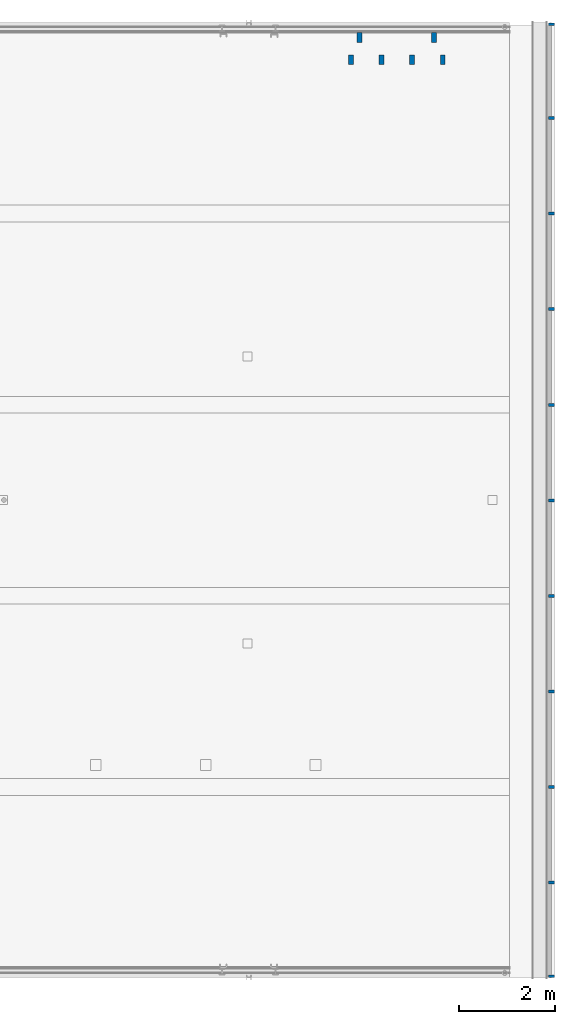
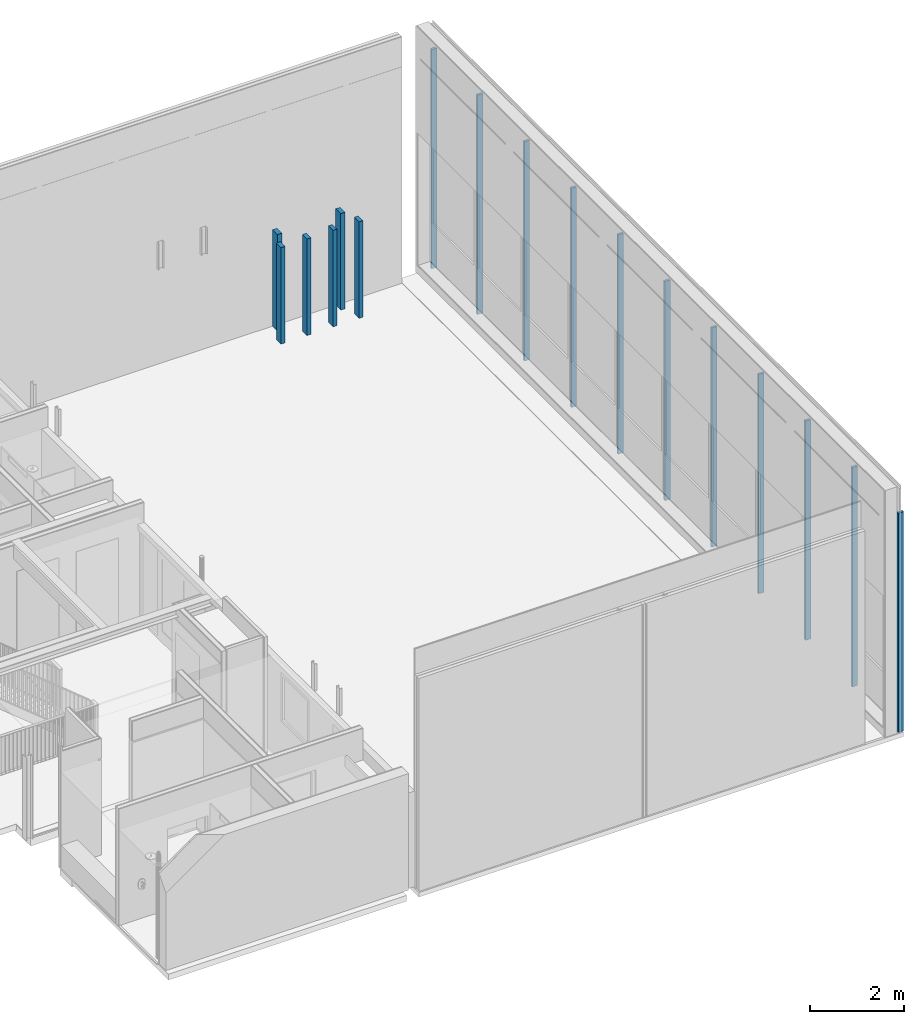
# One storey, part 3 of 35: 17 columns.
"""IFC2X3 building model written with IfcOpenShell, lengths in millimetres."""

from ifc_helpers import new_model, entity, si_unit, converted_unit, derived_unit, money_unit, direction, frame, origin_with_axes, place, context, subcontext, project, spatial, faceted_brep, material, type_object, element, save


model = new_model("IFC2X3")

# Units and contexts
model_context = context("Model", 3, precision=0.01, world=origin_with_axes(), true_north=direction((0.0, 1.0)))
body_context = subcontext(model_context, "Body", "Model", "MODEL_VIEW")
ifc_project = project(units=[si_unit("LENGTHUNIT", "METRE", prefix="MILLI"), si_unit("AREAUNIT", "SQUARE_METRE"), si_unit("VOLUMEUNIT", "CUBIC_METRE"), converted_unit("PLANEANGLEUNIT", "DEGREE", entity("IfcPlaneAngleMeasure", 0.0174532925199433), si_unit("PLANEANGLEUNIT", "RADIAN"), dimensions=[0, 0, 0, 0, 0, 0, 0]), money_unit("EUR"), converted_unit("TIMEUNIT", "Year", entity("IfcTimeMeasure", 31557600.0), si_unit("TIMEUNIT", "SECOND"), dimensions=[0, 0, 1, 0, 0, 0, 0]), si_unit("MASSUNIT", "GRAM", prefix="KILO"), si_unit("THERMODYNAMICTEMPERATUREUNIT", "DEGREE_CELSIUS"), si_unit("LUMINOUSINTENSITYUNIT", "LUMEN"), si_unit("ENERGYUNIT", "JOULE", prefix="MEGA"), derived_unit("THERMALCONDUCTANCEUNIT", [(si_unit("POWERUNIT", "WATT"), 1), (si_unit("LENGTHUNIT", "METRE"), -1), (si_unit("THERMODYNAMICTEMPERATUREUNIT", "KELVIN"), -1)]), derived_unit("SPECIFICHEATCAPACITYUNIT", [(si_unit("ENERGYUNIT", "JOULE"), 1), (si_unit("MASSUNIT", "GRAM", prefix="KILO"), -1), (si_unit("THERMODYNAMICTEMPERATUREUNIT", "KELVIN"), -1)]), derived_unit("MASSDENSITYUNIT", [(si_unit("MASSUNIT", "GRAM", prefix="KILO"), 1), (si_unit("VOLUMEUNIT", "CUBIC_METRE"), -1)])], contexts=[model_context])

# Site, building, storey
site_placement = place(None, origin_with_axes())
site = spatial("IfcSite", under=ifc_project, at=site_placement, Name="<site naam>", CompositionType="ELEMENT")
building_placement = place(site_placement, origin_with_axes())
building = spatial("IfcBuilding", under=site, at=building_placement, Name="<Naam gebouw>", CompositionType="ELEMENT")
storey_placement = place(building_placement, frame((0.0, 0.0, 6345.0), z_axis=(0.0, 0.0, 1.0), x_axis=(1.0, 0.0, 0.0)))
storey = spatial("IfcBuildingStorey", under=building, at=storey_placement, Name="02 2e tussenverdieping", CompositionType="ELEMENT", Elevation=6345.0)

# Columns
ifc_material_1 = material(Name="aluminium")
column_type_1 = type_object("IfcColumnType", Name="aluminium 60 x 130", PredefinedType="COLUMN")
column_1_placement = place(storey_placement, frame((70205.00000000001, 16000.00000000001, 0.0), z_axis=(0.0, 0.0, 1.0), x_axis=(0.0, 1.0, 0.0)))
element("IfcColumn", 1, at=column_1_placement, inside=storey, type_object=column_type_1, material=ifc_material_1, Name="41_Kolom_aluminium", ObjectType="COLUMN", context=body_context, shape_type="Brep", body=[
    faceted_brep([(-29.99999999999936, -64.99999999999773, 5715.00000396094), (-29.99999999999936, -64.99999999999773, 0.0), (30.00000000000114, -64.99999999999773, 0.0), (30.00000000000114, -64.99999999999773, 5715.00000396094), (-29.99999999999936, 64.99999999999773, 5715.00000396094), (-29.99999999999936, 64.99999999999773, 0.0), (30.00000000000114, 64.99999999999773, 0.0), (30.00000000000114, 64.99999999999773, 5715.00000396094)], [[[0, 1, 2, 3]], [[4, 5, 1, 0]], [[2, 1, 5, 6]], [[3, 2, 6, 7]], [[4, 0, 3, 7]], [[7, 6, 5, 4]]]),
])
column_2_placement = place(storey_placement, frame((70205.00000000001, 19959.99999956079, 0.0), z_axis=(0.0, 0.0, 1.0), x_axis=(0.0, 1.0, 0.0)))
element("IfcColumn", 2, at=column_2_placement, inside=storey, type_object=column_type_1, material=ifc_material_1, Name="41_Kolom_aluminium", ObjectType="COLUMN", context=body_context, shape_type="Brep", body=[
    faceted_brep([(-29.99999999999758, -64.99999999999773, 5715.00000396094), (-29.99999999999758, -64.99999999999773, 0.0), (30.00000000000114, -64.99999999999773, 0.0), (30.00000000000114, -64.99999999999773, 5715.00000396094), (-29.99999999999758, 64.99999999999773, 5715.00000396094), (-29.99999999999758, 64.99999999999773, 0.0), (30.00000000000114, 64.99999999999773, 0.0), (30.00000000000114, 64.99999999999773, 5715.00000396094)], [[[0, 1, 2, 3]], [[4, 5, 1, 0]], [[2, 1, 5, 6]], [[3, 2, 6, 7]], [[4, 0, 3, 7]], [[7, 6, 5, 4]]]),
])
for number, where, z_axis, x_axis, name in (
    (3, (70205.00000000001, 13999.99999999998, 0.0), (0.0, 0.0, 1.0), (0.0, 1.0, 0.0), "41_Kolom_aluminium"),
    (4, (70205.00000000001, 11997.00000014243, 0.0), (0.0, 0.0, 1.0), (0.0, 1.0, 0.0), "41_Kolom_aluminium"),
    (5, (70205.00000000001, 9997.000000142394, 0.0), (0.0, 0.0, 1.0), (0.0, 1.0, 0.0), "41_Kolom_aluminium"),
):
    element("IfcColumn", number, at=place(storey_placement, frame(where, z_axis=z_axis, x_axis=x_axis)), inside=storey, type_object=column_type_1, material=ifc_material_1, Name=name, ObjectType="COLUMN", context=body_context, shape_type="Brep", body=[
        faceted_brep([(-30.00000000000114, -64.99999999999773, 5715.00000396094), (-30.00000000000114, -64.99999999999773, 0.0), (29.99999999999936, -64.99999999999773, 0.0), (29.99999999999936, -64.99999999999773, 5715.00000396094), (-30.00000000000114, 64.99999999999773, 5715.00000396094), (-30.00000000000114, 64.99999999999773, 0.0), (29.99999999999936, 64.99999999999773, 0.0), (29.99999999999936, 64.99999999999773, 5715.00000396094)], [[[0, 1, 2, 3]], [[4, 5, 1, 0]], [[2, 1, 5, 6]], [[3, 2, 6, 7]], [[4, 0, 3, 7]], [[7, 6, 5, 4]]]),
    ])
column_3_placement = place(storey_placement, frame((70205.00000000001, 5999.999999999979, 0.0), z_axis=(0.0, 0.0, 1.0), x_axis=(0.0, 1.0, 0.0)))
element("IfcColumn", 6, at=column_3_placement, inside=storey, type_object=column_type_1, material=ifc_material_1, Name="41_Kolom_aluminium", ObjectType="COLUMN", context=body_context, shape_type="Brep", body=[
    faceted_brep([(-29.99999999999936, -64.99999999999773, 5715.00000396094), (-29.99999999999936, -64.99999999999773, 0.0), (30.00000000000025, -64.99999999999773, 0.0), (30.00000000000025, -64.99999999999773, 5715.00000396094), (-29.99999999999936, 64.99999999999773, 5715.00000396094), (-29.99999999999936, 64.99999999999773, 0.0), (30.00000000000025, 64.99999999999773, 0.0), (30.00000000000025, 64.99999999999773, 5715.00000396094)], [[[0, 1, 2, 3]], [[4, 5, 1, 0]], [[2, 1, 5, 6]], [[3, 2, 6, 7]], [[4, 0, 3, 7]], [[7, 6, 5, 4]]]),
])
column_4_placement = place(storey_placement, frame((70205.00000000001, 3999.999999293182, 0.0), z_axis=(0.0, 0.0, 1.0), x_axis=(0.0, 1.0, 0.0)))
element("IfcColumn", 7, at=column_4_placement, inside=storey, type_object=column_type_1, material=ifc_material_1, Name="41_Kolom_aluminium", ObjectType="COLUMN", context=body_context, shape_type="Brep", body=[
    faceted_brep([(-30.00000000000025, -64.99999999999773, 5715.00000396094), (-30.00000000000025, -64.99999999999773, 0.0), (29.9999999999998, -64.99999999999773, 0.0), (29.9999999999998, -64.99999999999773, 5715.00000396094), (-30.00000000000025, 64.99999999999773, 5715.00000396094), (-30.00000000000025, 64.99999999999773, 0.0), (29.9999999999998, 64.99999999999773, 0.0), (29.9999999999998, 64.99999999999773, 5715.00000396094)], [[[0, 1, 2, 3]], [[4, 5, 1, 0]], [[2, 1, 5, 6]], [[3, 2, 6, 7]], [[4, 0, 3, 7]], [[7, 6, 5, 4]]]),
])
column_5_placement = place(storey_placement, frame((70205.00000000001, 1999.999999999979, 0.0), z_axis=(0.0, 0.0, 1.0), x_axis=(0.0, 1.0, 0.0)))
element("IfcColumn", 8, at=column_5_placement, inside=storey, type_object=column_type_1, material=ifc_material_1, Name="41_Kolom_aluminium", ObjectType="COLUMN", context=body_context, shape_type="Brep", body=[
    faceted_brep([(-30.00000000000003, -64.99999999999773, 5715.00000396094), (-30.00000000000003, -64.99999999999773, 0.0), (30.00000000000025, -64.99999999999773, 0.0), (30.00000000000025, -64.99999999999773, 5715.00000396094), (-30.00000000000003, 64.99999999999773, 5715.00000396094), (-30.00000000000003, 64.99999999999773, 0.0), (30.00000000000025, 64.99999999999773, 0.0), (30.00000000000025, 64.99999999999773, 5715.00000396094)], [[[0, 1, 2, 3]], [[4, 5, 1, 0]], [[2, 1, 5, 6]], [[3, 2, 6, 7]], [[4, 0, 3, 7]], [[7, 6, 5, 4]]]),
])
column_6_placement = place(storey_placement, frame((70205.00000000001, 7999.999999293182, 0.0), z_axis=(0.0, 0.0, 1.0), x_axis=(0.0, 1.0, 0.0)))
element("IfcColumn", 9, at=column_6_placement, inside=storey, type_object=column_type_1, material=ifc_material_1, Name="41_Kolom_aluminium", ObjectType="COLUMN", context=body_context, shape_type="Brep", body=[
    faceted_brep([(-29.99999999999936, -64.99999999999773, 5715.00000396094), (-29.99999999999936, -64.99999999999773, 0.0), (29.99999999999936, -64.99999999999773, 0.0), (29.99999999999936, -64.99999999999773, 5715.00000396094), (-29.99999999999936, 64.99999999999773, 5715.00000396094), (-29.99999999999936, 64.99999999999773, 0.0), (29.99999999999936, 64.99999999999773, 0.0), (29.99999999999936, 64.99999999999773, 5715.00000396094)], [[[0, 1, 2, 3]], [[4, 5, 1, 0]], [[2, 1, 5, 6]], [[3, 2, 6, 7]], [[4, 0, 3, 7]], [[7, 6, 5, 4]]]),
])
column_7_placement = place(storey_placement, frame((70205.00000000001, 40.00000043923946, 0.0), z_axis=(0.0, 0.0, 1.0), x_axis=(0.0, 1.0, 0.0)))
element("IfcColumn", 10, at=column_7_placement, inside=storey, type_object=column_type_1, material=ifc_material_1, Name="41_Kolom_aluminium", ObjectType="COLUMN", context=body_context, shape_type="Brep", body=[
    faceted_brep([(30.00000000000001, 64.99999999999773, 5715.00000396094), (30.00000000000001, 64.99999999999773, 0.0), (-30.0, 64.99999999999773, 0.0), (-30.0, 64.99999999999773, 5715.00000396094), (29.99999999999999, -64.99999999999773, 5715.00000396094), (29.99999999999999, -64.99999999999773, 0.0), (-30.0, -64.99999999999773, 0.0), (-30.0, -64.99999999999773, 5715.00000396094)], [[[0, 1, 2, 3]], [[4, 5, 1, 0]], [[2, 1, 5, 6]], [[3, 2, 6, 7]], [[4, 0, 3, 7]], [[7, 6, 5, 4]]]),
])
column_8_placement = place(storey_placement, frame((70205.00000000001, 17999.99999999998, 0.0), z_axis=(0.0, 0.0, 1.0), x_axis=(0.0, 1.0, 0.0)))
element("IfcColumn", 11, at=column_8_placement, inside=storey, type_object=column_type_1, material=ifc_material_1, Name="41_Kolom_aluminium", ObjectType="COLUMN", context=body_context, shape_type="Brep", body=[
    faceted_brep([(-29.99999999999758, -64.99999999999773, 5715.00000396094), (-29.99999999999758, -64.99999999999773, 0.0), (30.00000000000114, -64.99999999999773, 0.0), (30.00000000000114, -64.99999999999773, 5715.00000396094), (-29.99999999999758, 64.99999999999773, 5715.00000396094), (-29.99999999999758, 64.99999999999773, 0.0), (30.00000000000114, 64.99999999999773, 0.0), (30.00000000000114, 64.99999999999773, 5715.00000396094)], [[[0, 1, 2, 3]], [[4, 5, 1, 0]], [[2, 1, 5, 6]], [[3, 2, 6, 7]], [[4, 0, 3, 7]], [[7, 6, 5, 4]]]),
])
ifc_material_2 = material(Name="ALG - ALGEMEEN")
column_type_2 = type_object("IfcColumnType", Name="ALG - ALGEMEEN 110 x 210", PredefinedType="COLUMN")
for number, where, z_axis, x_axis, name in (
    (12, (66186.2172289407, 19679.99276797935, 0.0), (0.0, 0.0, 1.0), (1.0, 0.0, 0.0), "77_Kolom_ALG"),
    (13, (67746.21708721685, 19679.99276797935, 0.0), (0.0, 0.0, 1.0), (1.0, 0.0, 0.0), "77_Kolom_ALG"),
):
    element("IfcColumn", number, at=place(storey_placement, frame(where, z_axis=z_axis, x_axis=x_axis)), inside=storey, type_object=column_type_2, material=ifc_material_2, Name=name, ObjectType="COLUMN", context=body_context, shape_type="Brep", body=[
        faceted_brep([(55.0000708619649, -105.000537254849, 2517.500000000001), (55.0000708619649, -105.000537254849, 3.000000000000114), (55.0000708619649, 105.0072082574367, 3.000000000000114), (55.0000708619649, 105.000537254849, 2517.500000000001), (-55.0000708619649, -105.000537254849, 2517.500000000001), (-55.0000708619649, -105.000537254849, 3.000000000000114), (-55.0000708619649, 105.0072082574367, 3.000000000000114), (-55.0000708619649, 105.000537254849, 2517.500000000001)], [[[0, 1, 2, 3]], [[4, 5, 1, 0]], [[5, 6, 2, 1]], [[3, 2, 6, 7]], [[3, 7, 4, 0]], [[7, 6, 5, 4]]]),
    ])
column_type_3 = type_object("IfcColumnType", Name="ALG - ALGEMEEN 100 x 200", PredefinedType="COLUMN")
for number, where, z_axis, x_axis, name in (
    (14, (67286.2170031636, 19214.99223058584, 0.0), (0.0, 0.0, 1.0), (1.0, 0.0, 0.0), "77_Kolom_ALG"),
    (15, (66646.21700316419, 19214.99223058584, 0.0), (0.0, 0.0, 1.0), (1.0, 0.0, 0.0), "77_Kolom_ALG"),
    (16, (67926.21700316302, 19214.99223058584, 0.0), (0.0, 0.0, 1.0), (1.0, 0.0, 0.0), "77_Kolom_ALG"),
    (17, (66006.21700316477, 19214.99223058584, 0.0), (0.0, 0.0, 1.0), (1.0, 0.0, 0.0), "77_Kolom_ALG"),
):
    element("IfcColumn", number, at=place(storey_placement, frame(where, z_axis=z_axis, x_axis=x_axis)), inside=storey, type_object=column_type_3, material=ifc_material_2, Name=name, ObjectType="COLUMN", context=body_context, shape_type="Brep", body=[
        faceted_brep([(50.00001319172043, -100.0000001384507, 2517.500000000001), (50.00001319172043, -100.0000001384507, 3.000000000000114), (50.00001319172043, 100.0000001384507, 3.000000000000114), (50.00001319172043, 100.0000001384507, 2517.500000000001), (-50.00001319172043, -100.0000001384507, 2517.500000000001), (-50.00001319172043, -100.0000001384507, 3.000000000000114), (-50.00001319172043, 100.0000001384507, 3.000000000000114), (-50.00001319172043, 100.0000001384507, 2517.500000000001)], [[[0, 1, 2, 3]], [[4, 5, 1, 0]], [[5, 6, 2, 1]], [[3, 2, 6, 7]], [[3, 7, 4, 0]], [[7, 6, 5, 4]]]),
    ])

save(model, "model.ifc")
